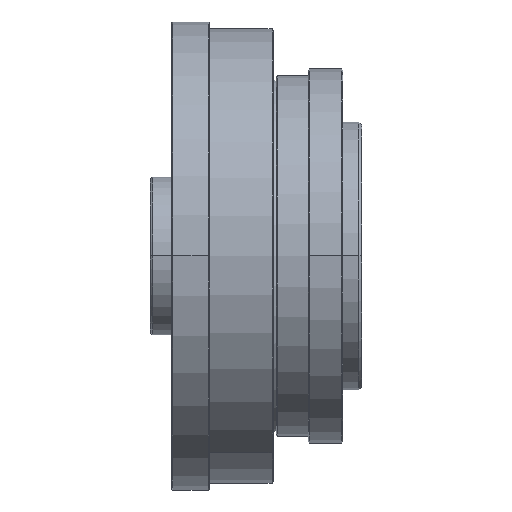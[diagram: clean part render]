
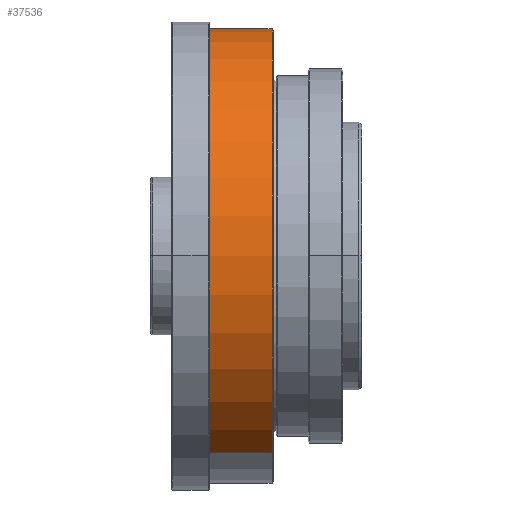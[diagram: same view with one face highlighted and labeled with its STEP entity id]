
A CAD part, top view. The second image highlights one B-rep face of the part: STEP entity #37536.
In plain terms, the highlighted cylindrical face has radius 85 mm (diameter 170 mm), a partial arc.
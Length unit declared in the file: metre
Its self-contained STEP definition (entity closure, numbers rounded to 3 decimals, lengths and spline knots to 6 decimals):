
#1033 = EDGE_CURVE ( 'NONE', #41608, #51330, #51397, .T. ) ;
#3188 = ORIENTED_EDGE ( 'NONE', *, *, #1033, .T. ) ;
#4244 = CARTESIAN_POINT ( 'NONE',  ( 0.122638, -0.073612, 0.0425 ) ) ;
#5799 = ORIENTED_EDGE ( 'NONE', *, *, #79182, .T. ) ;
#6050 = ORIENTED_EDGE ( 'NONE', *, *, #15945, .T. ) ;
#15945 = EDGE_CURVE ( 'NONE', #51330, #22062, #52098, .T. ) ;
#18971 = AXIS2_PLACEMENT_3D ( 'NONE', #65010, #51125, #58748 ) ;
#19400 = EDGE_CURVE ( 'NONE', #41608, #40112, #26775, .T. ) ;
#21453 = AXIS2_PLACEMENT_3D ( 'NONE', #58018, #85274, #36116 ) ;
#22062 = VERTEX_POINT ( 'NONE', #76743 ) ;
#23107 = FACE_OUTER_BOUND ( 'NONE', #48910, .T. ) ;
#26775 = LINE ( 'NONE', #80036, #68003 ) ;
#32972 = AXIS2_PLACEMENT_3D ( 'NONE', #62714, #47952, #82815 ) ;
#33812 = VECTOR ( 'NONE', #85644, 1. ) ;
#34736 = CIRCLE ( 'NONE', #18971, 0.085 ) ;
#36116 = DIRECTION ( 'NONE',  ( 0., 0.866, -0.5 ) ) ;
#37429 = CYLINDRICAL_SURFACE ( 'NONE', #21453, 0.085 ) ;
#37536 = ADVANCED_FACE ( 'NONE', ( #23107 ), #37429, .T. ) ;
#40112 = VERTEX_POINT ( 'NONE', #80542 ) ;
#41608 = VERTEX_POINT ( 'NONE', #55828 ) ;
#47952 = DIRECTION ( 'NONE',  ( 1., 0., 0. ) ) ;
#48910 = EDGE_LOOP ( 'NONE', ( #3188, #6050, #5799, #51988 ) ) ;
#51125 = DIRECTION ( 'NONE',  ( -1., 0., 0. ) ) ;
#51330 = VERTEX_POINT ( 'NONE', #52368 ) ;
#51397 = CIRCLE ( 'NONE', #32972, 0.085 ) ;
#51988 = ORIENTED_EDGE ( 'NONE', *, *, #19400, .F. ) ;
#52098 = LINE ( 'NONE', #4244, #33812 ) ;
#52368 = CARTESIAN_POINT ( 'NONE',  ( 0.071672, -0.073612, 0.0425 ) ) ;
#55828 = CARTESIAN_POINT ( 'NONE',  ( 0.071672, 0.073612, -0.0425 ) ) ;
#58018 = CARTESIAN_POINT ( 'NONE',  ( 0.122638, 0., 0. ) ) ;
#58748 = DIRECTION ( 'NONE',  ( 0., 0.866, -0.5 ) ) ;
#62714 = CARTESIAN_POINT ( 'NONE',  ( 0.071672, 0., 0. ) ) ;
#65010 = CARTESIAN_POINT ( 'NONE',  ( 0.099672, 0., 0. ) ) ;
#68003 = VECTOR ( 'NONE', #81788, 1. ) ;
#76743 = CARTESIAN_POINT ( 'NONE',  ( 0.099672, -0.073612, 0.0425 ) ) ;
#79182 = EDGE_CURVE ( 'NONE', #22062, #40112, #34736, .T. ) ;
#80036 = CARTESIAN_POINT ( 'NONE',  ( 0.122638, 0.073612, -0.0425 ) ) ;
#80542 = CARTESIAN_POINT ( 'NONE',  ( 0.099672, 0.073612, -0.0425 ) ) ;
#81788 = DIRECTION ( 'NONE',  ( 1., 0., 0. ) ) ;
#82815 = DIRECTION ( 'NONE',  ( 0., 0.866, -0.5 ) ) ;
#85274 = DIRECTION ( 'NONE',  ( 1., 0., 0. ) ) ;
#85644 = DIRECTION ( 'NONE',  ( 1., 0., 0. ) ) ;
